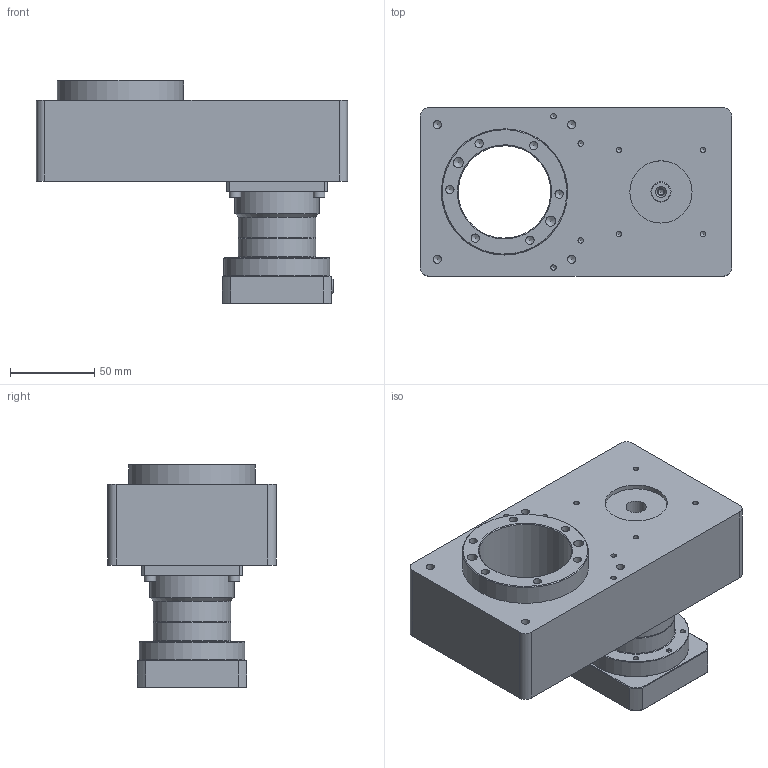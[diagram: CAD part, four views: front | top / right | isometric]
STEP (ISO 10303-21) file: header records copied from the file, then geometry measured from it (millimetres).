
FILE_DESCRIPTION((''),'2;1');
FILE_NAME('C:\Users\disegnatore3\Desktop\3D\TAVOLE ROTANTI\ROTAC PLUS\ROTAC PLUS 100\FORMATO CAD\ROTAC PLUS 100.stp','2017-01-17T09:51:52',('disegnatore3'),(''),'Autodesk Inventor 2012','Autodesk Inventor 2012','');
FILE_SCHEMA(('AUTOMOTIVE_DESIGN { 1 0 10303 214 1 1 1 1 }'));
Length unit declared in the file: millimetre
Products named in the file (7): ROTAC PLUS 100.iam (Livello di dettaglio1); C100P; PC100P; PI100P; DIN 7984 - M4 x 12; ISO 4762 - M4 x 16ISO; RID50R100P
Assembly tree (12 placements, depth 2):
  ROTAC PLUS 100.iam (Livello di dettaglio1)
    C100P
    PC100P
    PI100P
    DIN 7984 - M4 x 12  x4
    ISO 4762 - M4 x 16ISO  x4
    RID50R100P
Bounding box: 185 x 100 x 133 mm (x, y, z)
Volume: 948178.7 mm3; surface area: 143789.3 mm2
Topology: 12 solids, 17 shells, 500 faces, 1147 edges, 725 vertices
Faces by surface type: plane 225, cylinder 137, cone 103, torus 35
Full cylindrical faces by diameter (mm): 3 x1, 3.242 x33, 3.5 x1, 4 x14, 4.2 x4, 4.3 x1, 4.5 x8, 4.917 x14, 5.5 x1, 6 x2, 7 x12, 7.5 x4, 8 x5, 12 x2, 14 x2, 20 x1, 35 x2, 37 x2, 40 x1, 46 x2, 50 x1, 55 x1, 63 x1, 75 x2
Entity records: 10729 total; most frequent: CARTESIAN_POINT 2038, DIRECTION 1775, ORIENTED_EDGE 1366, AXIS2_PLACEMENT_3D 758, EDGE_CURVE 683, EDGE_LOOP 681, VERTEX_POINT 530, FACE_OUTER_BOUND 410
